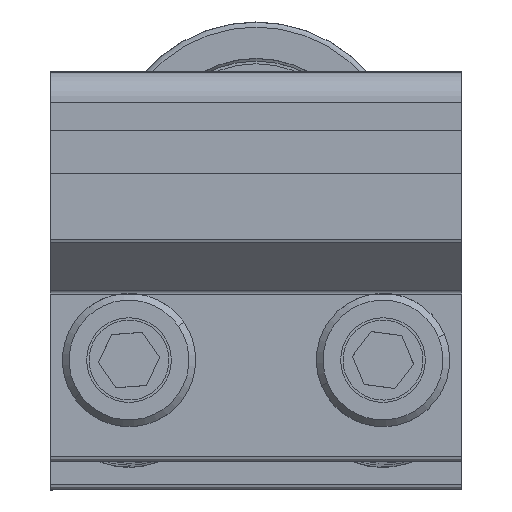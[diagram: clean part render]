
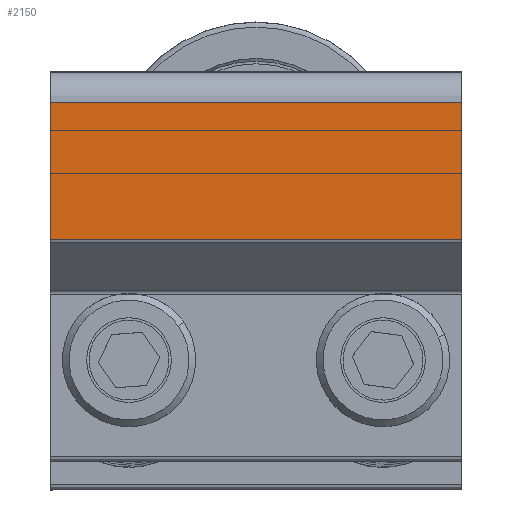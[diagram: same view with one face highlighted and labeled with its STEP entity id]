
A CAD part, top view. The second image highlights one B-rep face of the part: STEP entity #2150.
In plain terms, the highlighted planar face has unit normal (0, 0, 1) as drawn and (1, 0, 0) by its records, which use the part's own axes.
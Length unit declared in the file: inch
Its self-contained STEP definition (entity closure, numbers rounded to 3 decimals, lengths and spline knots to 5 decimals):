
#1644=DIRECTION('',(0.,0.,1.));
#1645=VECTOR('',#1644,1.216);
#1646=CARTESIAN_POINT('',(0.375,0.35921,-0.608));
#1647=LINE('',#1646,#1645);
#1648=DIRECTION('',(0.,-1.,0.));
#1649=VECTOR('',#1648,0.40379);
#1650=CARTESIAN_POINT('',(0.375,0.763,-0.608));
#1651=LINE('',#1650,#1649);
#1729=DIRECTION('',(0.,-1.,0.));
#1730=VECTOR('',#1729,0.40379);
#1731=CARTESIAN_POINT('',(0.375,0.763,0.608));
#1732=LINE('',#1731,#1730);
#1733=DIRECTION('',(0.,0.,-1.));
#1734=VECTOR('',#1733,1.216);
#1735=CARTESIAN_POINT('',(0.375,0.763,0.608));
#1736=LINE('',#1735,#1734);
#1913=CARTESIAN_POINT('',(0.375,0.35921,-0.608));
#1914=CARTESIAN_POINT('',(0.375,0.35921,0.608));
#1915=VERTEX_POINT('',#1913);
#1916=VERTEX_POINT('',#1914);
#1979=CARTESIAN_POINT('',(0.375,0.763,-0.608));
#1980=VERTEX_POINT('',#1979);
#1993=CARTESIAN_POINT('',(0.375,0.763,0.608));
#1994=VERTEX_POINT('',#1993);
#2138=CARTESIAN_POINT('',(0.375,0.763,0.608));
#2139=DIRECTION('',(-1.,0.,0.));
#2140=DIRECTION('',(0.,-1.,0.));
#2141=AXIS2_PLACEMENT_3D('',#2138,#2139,#2140);
#2142=PLANE('',#2141);
#2143=ORIENTED_EDGE('',*,*,#2055,.F.);
#2145=ORIENTED_EDGE('',*,*,#2144,.T.);
#2146=ORIENTED_EDGE('',*,*,#2096,.T.);
#2147=ORIENTED_EDGE('',*,*,#2086,.T.);
#2148=EDGE_LOOP('',(#2143,#2145,#2146,#2147));
#2149=FACE_OUTER_BOUND('',#2148,.F.);
#2055=EDGE_CURVE('',#1994,#1916,#1732,.T.);
#2086=EDGE_CURVE('',#1915,#1916,#1647,.T.);
#2096=EDGE_CURVE('',#1980,#1915,#1651,.T.);
#2144=EDGE_CURVE('',#1994,#1980,#1736,.T.);
#2150=ADVANCED_FACE('',(#2149),#2142,.F.);
